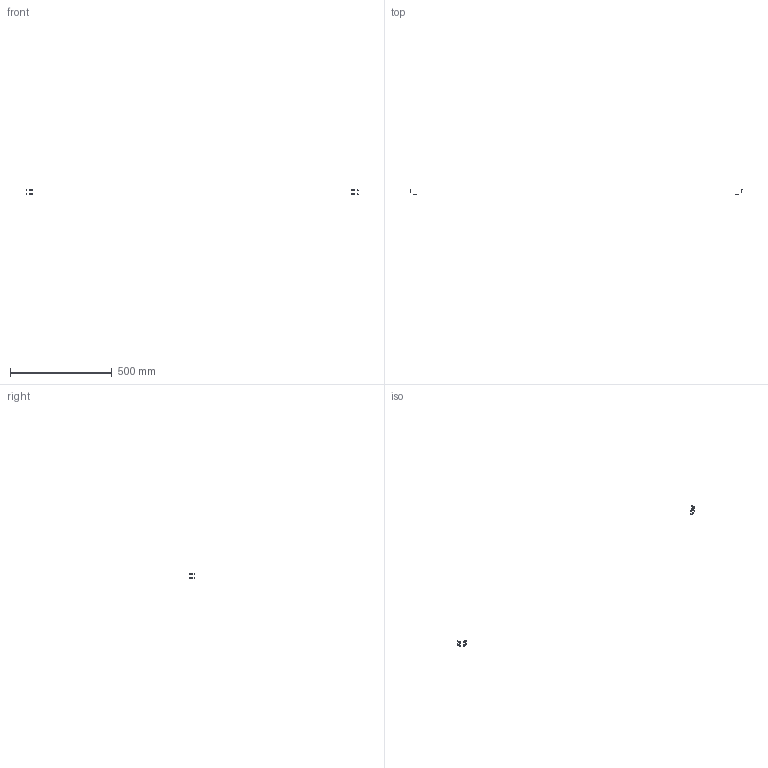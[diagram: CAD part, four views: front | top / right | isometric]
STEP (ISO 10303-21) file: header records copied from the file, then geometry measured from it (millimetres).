
FILE_DESCRIPTION(/* description */ (''),/* implementation_level */ '2;1');
FILE_NAME(/* name */ '3.frame-top#3.5#HNTPZ5-5',/* time_stamp */ '2014-12-01T20:12:18+01:00',/* author */ (''),/* organization */ (''),/* preprocessor_version */ 'ST-DEVELOPER v14',/* originating_system */ '',/* authorisation */ '');
FILE_SCHEMA (('AUTOMOTIVE_DESIGN'));
Length unit declared in the file: millimetre
Products named in the file (2): Document; nut tslot, post, M5
Assembly tree (4 placements, depth 2):
  Document
    nut tslot, post, M5  x4
Bounding box: 1630.4 x 29.2 x 28.3 mm (x, y, z)
Volume: 2520.1 mm3; surface area: 3356.1 mm2
Topology: 8 solids, 8 shells, 104 faces, 288 edges, 192 vertices
Faces by surface type: plane 88, bspline 16
Entity records: 4833 total; most frequent: CARTESIAN_POINT 2287, B_SPLINE_CURVE_WITH_KNOTS 500, ORIENTED_EDGE 360, PCURVE 360, DEFINITIONAL_REPRESENTATION 360, SURFACE_CURVE 180, EDGE_CURVE 180, VERTEX_POINT 120
